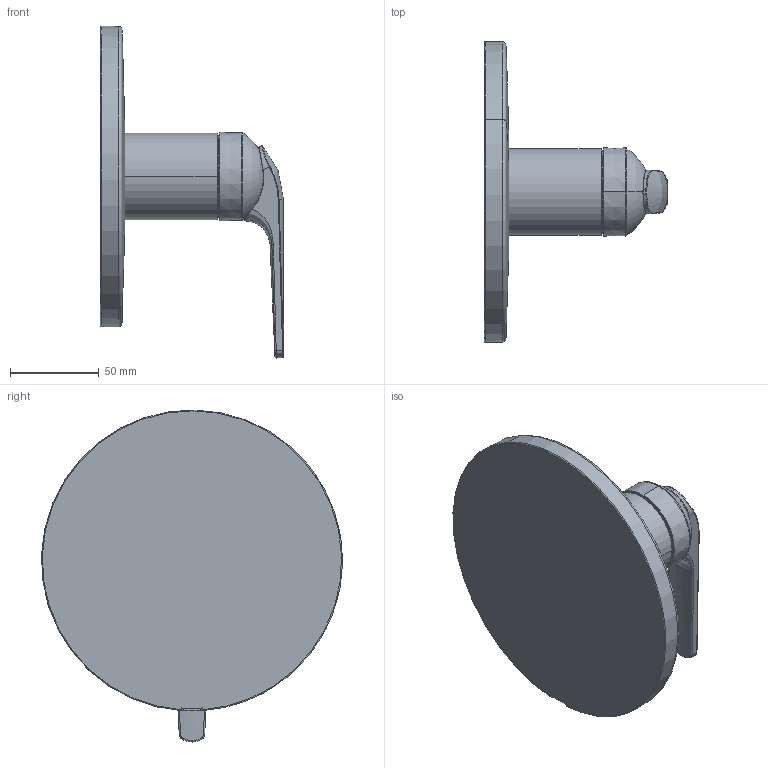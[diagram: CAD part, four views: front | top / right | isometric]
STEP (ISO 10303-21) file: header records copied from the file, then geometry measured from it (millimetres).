
FILE_DESCRIPTION((''),'2;1');
FILE_NAME('21064300','2017-08-29T',('SN986'),(''),'CREO PARAMETRIC BY PTC INC, 2016260','CREO PARAMETRIC BY PTC INC, 2016260','');
FILE_SCHEMA(('CONFIG_CONTROL_DESIGN'));
Length unit declared in the file: millimetre
Products named in the file (1): 21064300
Bounding box: 103.41 x 169.9 x 187.43 mm (x, y, z)
Volume: 452059.8 mm3; surface area: 69532 mm2
Topology: 1 solids, 1 shells, 117 faces, 286 edges, 168 vertices
Faces by surface type: bspline 59, torus 17, cylinder 13, plane 12, cone 8, sphere 8
Entity records: 7444 total; most frequent: CARTESIAN_POINT 5085, ORIENTED_EDGE 560, DIRECTION 394, EDGE_CURVE 280, AXIS2_PLACEMENT_3D 185, VERTEX_POINT 168, B_SPLINE_CURVE_WITH_KNOTS 129, CIRCLE 127
